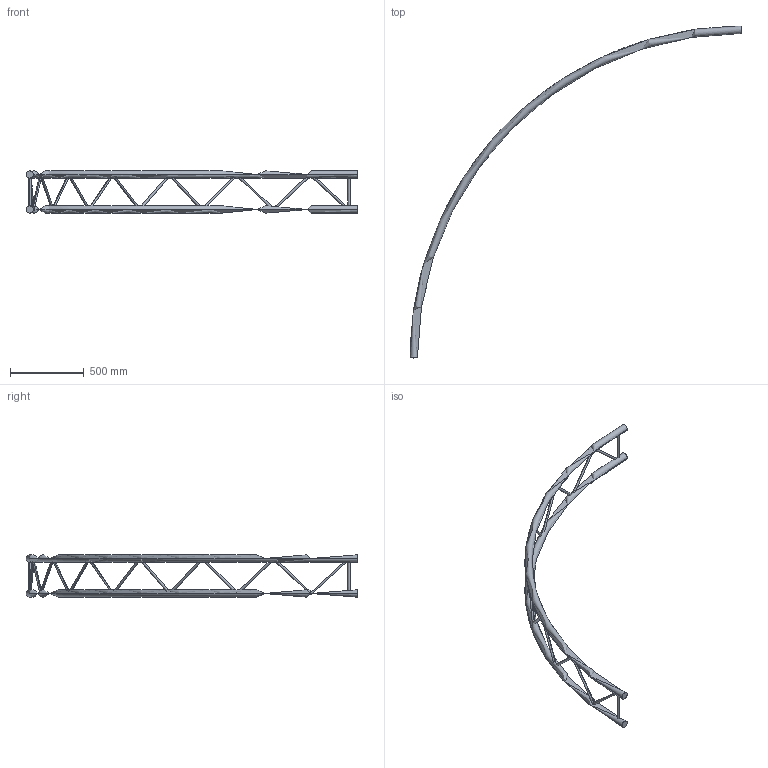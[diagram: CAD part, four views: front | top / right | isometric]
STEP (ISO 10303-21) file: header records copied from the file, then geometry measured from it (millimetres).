
FILE_DESCRIPTION (( 'STEP AP203' ), '1' );
FILE_NAME ('EXC29450V.STEP', '2009-10-26T09:20:39', ( 'CEDIA' ), ( 'CEDIA INDUSTRIE' ), 'SwSTEP 2.0', 'SolidWorks 2009', '' );
FILE_SCHEMA (( 'CONFIG_CONTROL_DESIGN' ));
Length unit declared in the file: millimetre
Products named in the file (1): EXC29450V
Bounding box: 2250 x 2250 x 287 mm (x, y, z)
Volume: 14628244.4 mm3; surface area: 1328696.5 mm2
Topology: 2 solids, 2 shells, 53 faces, 132 edges, 84 vertices
Faces by surface type: cylinder 30, plane 19, torus 4
Entity records: 3081 total; most frequent: CARTESIAN_POINT 1802, ORIENTED_EDGE 264, DIRECTION 229, EDGE_CURVE 132, AXIS2_PLACEMENT_3D 96, VERTEX_POINT 84, EDGE_LOOP 68, FACE_OUTER_BOUND 53
